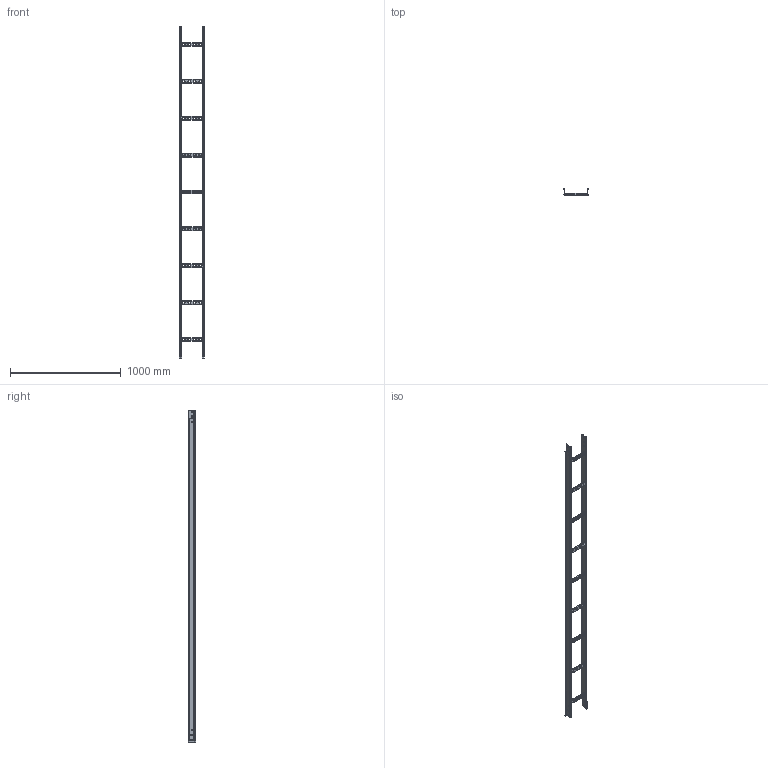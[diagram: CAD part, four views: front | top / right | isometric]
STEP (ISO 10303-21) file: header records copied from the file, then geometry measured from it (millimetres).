
FILE_DESCRIPTION (( 'STEP AP203' ), '1' );
FILE_NAME ('FE trav35 H60-75-100 p333 200x60.step', '2023-07-28T15:28:08', ( '' ), ( '' ), 'SwSTEP 2.0', 'SolidWorks 2022', '' );
FILE_SCHEMA (( 'CONFIG_CONTROL_DESIGN' ));
Length unit declared in the file: millimetre
Products named in the file (3): FE_RA35_200; FE_MONTANTE_60x1,5; FE trav35 H60-75-100 p333 200x60
Assembly tree (11 placements, depth 2):
  FE trav35 H60-75-100 p333 200x60
    FE_MONTANTE_60x1,5  x2
    FE_RA35_200  x9
Bounding box: 232 x 64.5 x 3000 mm (x, y, z)
Volume: 189150.3 mm3; surface area: 1441486.2 mm2
Topology: 9 solids, 13 shells, 702 faces, 1750 edges, 1072 vertices
Faces by surface type: plane 454, cylinder 244, bspline 4
Entity records: 5653 total; most frequent: CARTESIAN_POINT 1258, DIRECTION 835, ORIENTED_EDGE 782, EDGE_CURVE 399, AXIS2_PLACEMENT_3D 293, VERTEX_POINT 256, VECTOR 249, LINE 249
